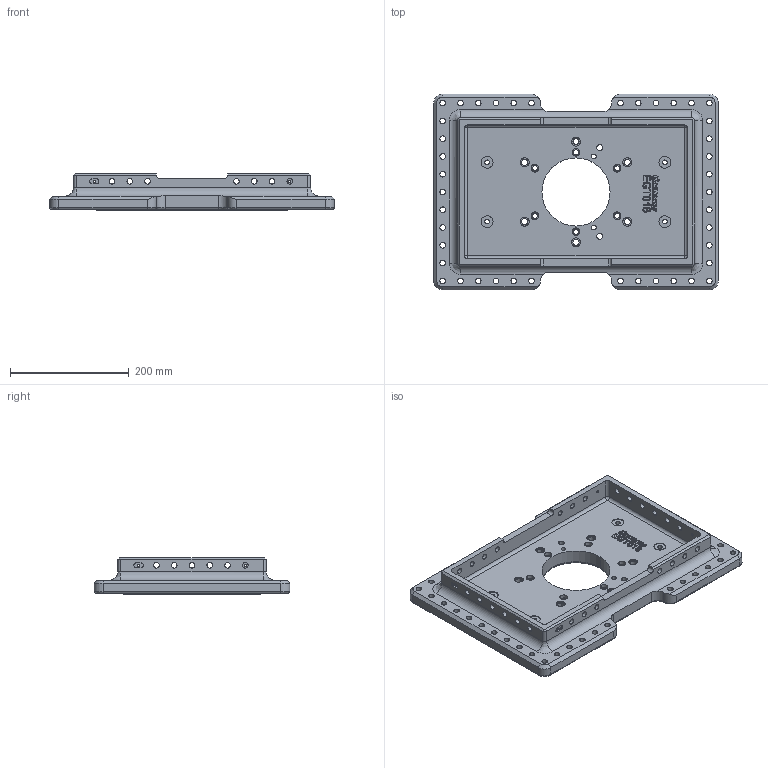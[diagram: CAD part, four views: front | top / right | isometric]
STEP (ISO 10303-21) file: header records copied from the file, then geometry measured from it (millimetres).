
FILE_DESCRIPTION(('CATIA V5 STEP Exchange'),'2;1');
FILE_NAME('C:\Users\User\Desktop\stp\EGT_018.stp','2017-07-21T01:13:02+00:00',('none'),('none'),'CATIA Version 5 Release 21 GA (IN-10)','CATIA V5 STEP AP203','none');
FILE_SCHEMA(('CONFIG_CONTROL_DESIGN'));
Length unit declared in the file: millimetre
Products named in the file (1): EGT_018
Bounding box: 480 x 330 x 62 mm (x, y, z)
Volume: 3573323.9 mm3; surface area: 479193.7 mm2
Topology: 30 solids, 30 shells, 1440 faces, 3885 edges, 2552 vertices
Faces by surface type: plane 872, cylinder 382, extrusion 100, cone 56, bspline 30
Entity records: 48079 total; most frequent: CARTESIAN_POINT 12600, ORIENTED_EDGE 7762, DIRECTION 6104, EDGE_CURVE 3881, VECTOR 2914, LINE 2814, VERTEX_POINT 2552, AXIS2_PLACEMENT_3D 1936
